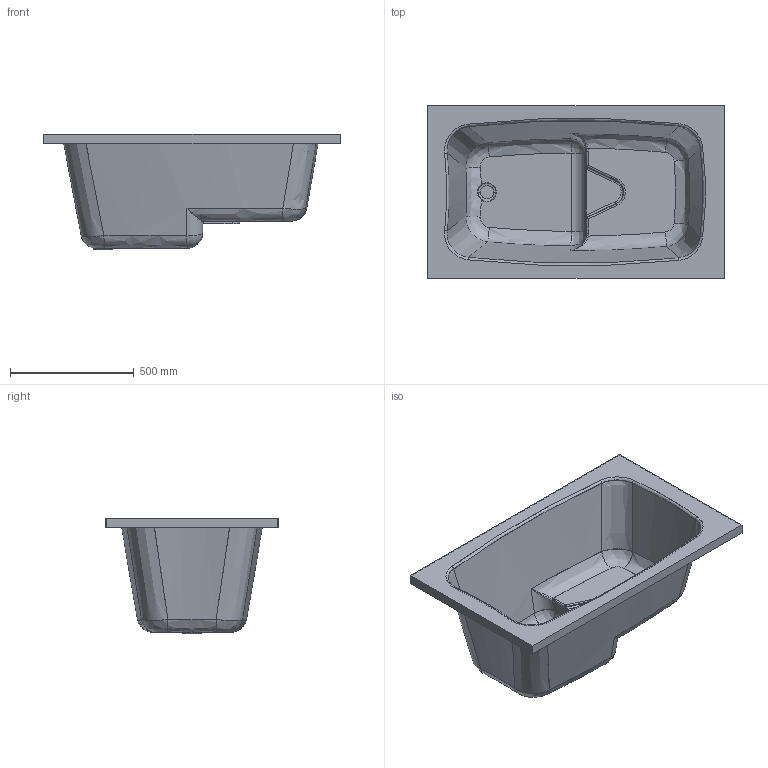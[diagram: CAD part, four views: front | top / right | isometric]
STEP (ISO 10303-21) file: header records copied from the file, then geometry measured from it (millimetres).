
FILE_DESCRIPTION(('STEP AP203'),'2;1');
FILE_NAME('BAT12070-A.stp','2015-07-31T12:34:36',(''),(''),'2014.1.117','THINKDESIGN','');
FILE_SCHEMA(('CONFIG_CONTROL_DESIGN'));
Length unit declared in the file: millimetre
Bounding box: 1200 x 700 x 468.97 mm (x, y, z)
Volume: 5653954.1 mm3; surface area: 3766309.8 mm2
Topology: 1 solids, 1 shells, 121 faces, 295 edges, 168 vertices
Faces by surface type: bspline 82, plane 23, cylinder 16
Entity records: 7553 total; most frequent: CARTESIAN_POINT 5044, ORIENTED_EDGE 574, DIRECTION 390, EDGE_CURVE 287, VERTEX_POINT 168, AXIS2_PLACEMENT_3D 160, EDGE_LOOP 123, FACE_OUTER_BOUND 121
